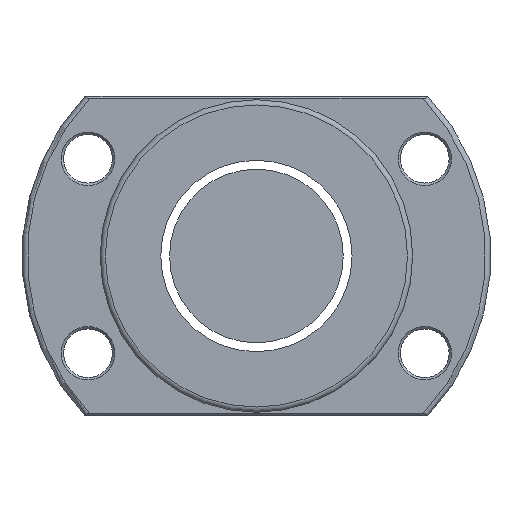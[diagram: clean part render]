
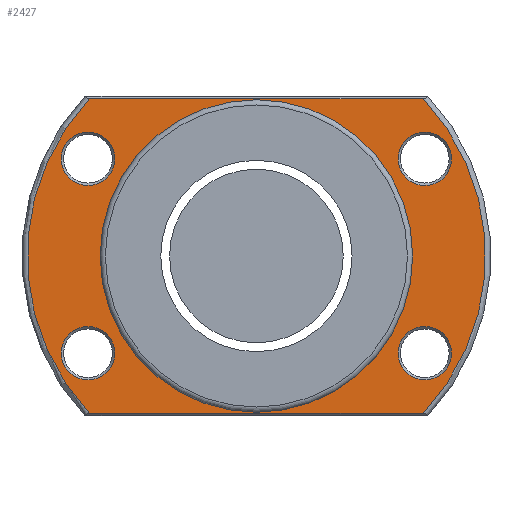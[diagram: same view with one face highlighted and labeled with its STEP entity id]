
A CAD part, left-side view. The second image highlights one B-rep face of the part: STEP entity #2427.
In plain terms, the highlighted planar face has unit normal (-1, 0, 0).
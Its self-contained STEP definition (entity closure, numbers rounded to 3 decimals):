
#38 = VERTEX_POINT ( 'NONE', #1749 ) ;
#58 = VERTEX_POINT ( 'NONE', #1925 ) ;
#70 = AXIS2_PLACEMENT_3D ( 'NONE', #479, #1426, #1187 ) ;
#80 = FACE_BOUND ( 'NONE', #1487, .T. ) ;
#123 = CARTESIAN_POINT ( 'NONE',  ( -145.5, 67.5, 45.3 ) ) ;
#189 = AXIS2_PLACEMENT_3D ( 'NONE', #2929, #2732, #2259 ) ;
#225 = EDGE_CURVE ( 'NONE', #58, #58, #1410, .T. ) ;
#268 = FACE_OUTER_BOUND ( 'NONE', #2405, .T. ) ;
#311 = EDGE_CURVE ( 'NONE', #38, #353, #873, .T. ) ;
#326 = FACE_BOUND ( 'NONE', #2881, .T. ) ;
#330 = AXIS2_PLACEMENT_3D ( 'NONE', #1506, #2421, #341 ) ;
#335 = CARTESIAN_POINT ( 'NONE',  ( -145.5, 48.497, -28. ) ) ;
#341 = DIRECTION ( 'NONE',  ( 0., 0., 1. ) ) ;
#353 = VERTEX_POINT ( 'NONE', #1111 ) ;
#358 = DIRECTION ( 'NONE',  ( -1., 0., 0. ) ) ;
#387 = EDGE_CURVE ( 'NONE', #997, #997, #1501, .T. ) ;
#409 = ORIENTED_EDGE ( 'NONE', *, *, #387, .T. ) ;
#427 = VERTEX_POINT ( 'NONE', #1552 ) ;
#479 = CARTESIAN_POINT ( 'NONE',  ( -145.5, -48.497, 28. ) ) ;
#511 = ORIENTED_EDGE ( 'NONE', *, *, #1684, .T. ) ;
#532 = DIRECTION ( 'NONE',  ( 0., -1., 0. ) ) ;
#566 = CARTESIAN_POINT ( 'NONE',  ( -145.5, 48.497, 35.7 ) ) ;
#568 = EDGE_CURVE ( 'NONE', #749, #749, #2309, .T. ) ;
#576 = AXIS2_PLACEMENT_3D ( 'NONE', #673, #2051, #1340 ) ;
#673 = CARTESIAN_POINT ( 'NONE',  ( -145.5, 0., 0. ) ) ;
#749 = VERTEX_POINT ( 'NONE', #1225 ) ;
#822 = DIRECTION ( 'NONE',  ( 1., 0., 0. ) ) ;
#847 = DIRECTION ( 'NONE',  ( 0., 0., 1. ) ) ;
#873 = CIRCLE ( 'NONE', #576, 66. ) ;
#963 = VECTOR ( 'NONE', #532, 1000. ) ;
#973 = CARTESIAN_POINT ( 'NONE',  ( -145.5, 67.5, 0. ) ) ;
#997 = VERTEX_POINT ( 'NONE', #2360 ) ;
#1046 = DIRECTION ( 'NONE',  ( 0., 0., 1. ) ) ;
#1058 = ORIENTED_EDGE ( 'NONE', *, *, #568, .T. ) ;
#1060 = DIRECTION ( 'NONE',  ( 0., 1., 0. ) ) ;
#1062 = DIRECTION ( 'NONE',  ( 1., 0., 0. ) ) ;
#1111 = CARTESIAN_POINT ( 'NONE',  ( -145.5, -47.999, 45.3 ) ) ;
#1144 = ORIENTED_EDGE ( 'NONE', *, *, #225, .T. ) ;
#1170 = AXIS2_PLACEMENT_3D ( 'NONE', #1307, #1062, #847 ) ;
#1187 = DIRECTION ( 'NONE',  ( 0., 0., 1. ) ) ;
#1225 = CARTESIAN_POINT ( 'NONE',  ( -145.5, -48.497, 35.7 ) ) ;
#1241 = AXIS2_PLACEMENT_3D ( 'NONE', #335, #822, #1253 ) ;
#1250 = LINE ( 'NONE', #2125, #963 ) ;
#1253 = DIRECTION ( 'NONE',  ( 0., 0., 1. ) ) ;
#1307 = CARTESIAN_POINT ( 'NONE',  ( -145.5, 48.497, 28. ) ) ;
#1340 = DIRECTION ( 'NONE',  ( 0., 0., 1. ) ) ;
#1356 = ORIENTED_EDGE ( 'NONE', *, *, #2769, .T. ) ;
#1410 = CIRCLE ( 'NONE', #330, 7.7 ) ;
#1426 = DIRECTION ( 'NONE',  ( 1., 0., 0. ) ) ;
#1457 = EDGE_LOOP ( 'NONE', ( #1058 ) ) ;
#1483 = VERTEX_POINT ( 'NONE', #2401 ) ;
#1487 = EDGE_LOOP ( 'NONE', ( #1144 ) ) ;
#1490 = FACE_BOUND ( 'NONE', #1760, .T. ) ;
#1501 = CIRCLE ( 'NONE', #189, 45. ) ;
#1506 = CARTESIAN_POINT ( 'NONE',  ( -145.5, -48.497, -28. ) ) ;
#1552 = CARTESIAN_POINT ( 'NONE',  ( -145.5, 47.999, 45.3 ) ) ;
#1669 = ORIENTED_EDGE ( 'NONE', *, *, #1808, .T. ) ;
#1680 = CIRCLE ( 'NONE', #2067, 66. ) ;
#1684 = EDGE_CURVE ( 'NONE', #353, #427, #2715, .T. ) ;
#1697 = AXIS2_PLACEMENT_3D ( 'NONE', #973, #358, #1046 ) ;
#1749 = CARTESIAN_POINT ( 'NONE',  ( -145.5, -47.999, -45.3 ) ) ;
#1760 = EDGE_LOOP ( 'NONE', ( #2096 ) ) ;
#1808 = EDGE_CURVE ( 'NONE', #1483, #1483, #2692, .T. ) ;
#1859 = DIRECTION ( 'NONE',  ( 0., 0., 1. ) ) ;
#1925 = CARTESIAN_POINT ( 'NONE',  ( -145.5, -48.497, -20.3 ) ) ;
#2035 = CARTESIAN_POINT ( 'NONE',  ( -145.5, 47.999, -45.3 ) ) ;
#2051 = DIRECTION ( 'NONE',  ( -1., 0., 0. ) ) ;
#2067 = AXIS2_PLACEMENT_3D ( 'NONE', #2985, #2107, #1859 ) ;
#2096 = ORIENTED_EDGE ( 'NONE', *, *, #2449, .T. ) ;
#2107 = DIRECTION ( 'NONE',  ( -1., 0., 0. ) ) ;
#2121 = PLANE ( 'NONE',  #1697 ) ;
#2122 = EDGE_CURVE ( 'NONE', #427, #2526, #1680, .T. ) ;
#2125 = CARTESIAN_POINT ( 'NONE',  ( -145.5, 67.5, -45.3 ) ) ;
#2135 = FACE_BOUND ( 'NONE', #2241, .T. ) ;
#2218 = VERTEX_POINT ( 'NONE', #566 ) ;
#2241 = EDGE_LOOP ( 'NONE', ( #1669 ) ) ;
#2259 = DIRECTION ( 'NONE',  ( 0., 0., -1. ) ) ;
#2260 = ORIENTED_EDGE ( 'NONE', *, *, #311, .T. ) ;
#2271 = CIRCLE ( 'NONE', #1170, 7.7 ) ;
#2309 = CIRCLE ( 'NONE', #70, 7.7 ) ;
#2360 = CARTESIAN_POINT ( 'NONE',  ( -145.5, 0., -45. ) ) ;
#2401 = CARTESIAN_POINT ( 'NONE',  ( -145.5, 48.497, -20.3 ) ) ;
#2405 = EDGE_LOOP ( 'NONE', ( #511, #2556, #1356, #2260 ) ) ;
#2421 = DIRECTION ( 'NONE',  ( 1., 0., 0. ) ) ;
#2427 = ADVANCED_FACE ( 'NONE', ( #2135, #80, #2621, #1490, #326, #268 ), #2121, .T. ) ;
#2449 = EDGE_CURVE ( 'NONE', #2218, #2218, #2271, .T. ) ;
#2526 = VERTEX_POINT ( 'NONE', #2035 ) ;
#2556 = ORIENTED_EDGE ( 'NONE', *, *, #2122, .T. ) ;
#2621 = FACE_BOUND ( 'NONE', #1457, .T. ) ;
#2692 = CIRCLE ( 'NONE', #1241, 7.7 ) ;
#2715 = LINE ( 'NONE', #123, #2891 ) ;
#2732 = DIRECTION ( 'NONE',  ( 1., 0., 0. ) ) ;
#2769 = EDGE_CURVE ( 'NONE', #2526, #38, #1250, .T. ) ;
#2881 = EDGE_LOOP ( 'NONE', ( #409 ) ) ;
#2891 = VECTOR ( 'NONE', #1060, 1000. ) ;
#2929 = CARTESIAN_POINT ( 'NONE',  ( -145.5, 0., 0. ) ) ;
#2985 = CARTESIAN_POINT ( 'NONE',  ( -145.5, 0., 0. ) ) ;
